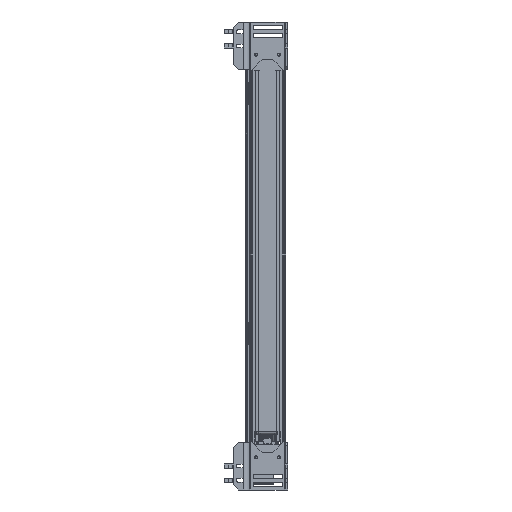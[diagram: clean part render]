
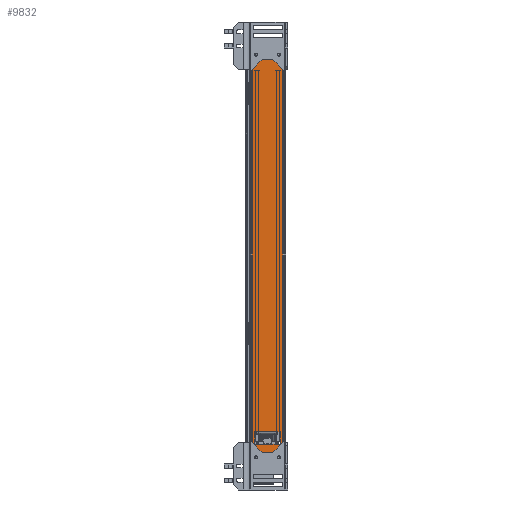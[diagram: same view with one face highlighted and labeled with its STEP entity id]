
A CAD part, left-side view. The second image highlights one B-rep face of the part: STEP entity #9832.
In plain terms, the highlighted planar face has unit normal (-1, 0, 0) as drawn and (1, 0, 0) by its records, which use the part's own axes.
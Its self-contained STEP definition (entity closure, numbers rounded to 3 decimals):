
#9559 = VERTEX_POINT ( 'NONE', #88823 ) ;
#9567 = EDGE_CURVE ( 'NONE', #9761, #9705, #88721, .T. ) ;
#9576 = VERTEX_POINT ( 'NONE', #88902 ) ;
#9633 = VERTEX_POINT ( 'NONE', #88985 ) ;
#9649 = VERTEX_POINT ( 'NONE', #89047 ) ;
#9702 = VERTEX_POINT ( 'NONE', #89170 ) ;
#9705 = VERTEX_POINT ( 'NONE', #89245 ) ;
#9737 = EDGE_CURVE ( 'NONE', #9649, #9559, #89401, .T. ) ;
#9743 = VERTEX_POINT ( 'NONE', #89474 ) ;
#9746 = EDGE_CURVE ( 'NONE', #9743, #9576, #89398, .T. ) ;
#9752 = EDGE_CURVE ( 'NONE', #9633, #9702, #89366, .T. ) ;
#9761 = VERTEX_POINT ( 'NONE', #89525 ) ;
#9770 = VERTEX_POINT ( 'NONE', #89512 ) ;
#9777 = EDGE_CURVE ( 'NONE', #9834, #9795, #89486, .T. ) ;
#9782 = EDGE_LOOP ( 'NONE', ( #9955, #9883, #9951, #9852, #9851, #9969, #9787, #9846, #9850, #9972, #9847, #9963 ) ) ;
#9785 = ORIENTED_EDGE ( 'NONE', *, *, #9777, .F. ) ;
#9787 = ORIENTED_EDGE ( 'NONE', *, *, #9970, .T. ) ;
#9789 = VERTEX_POINT ( 'NONE', #89567 ) ;
#9792 = EDGE_CURVE ( 'NONE', #9869, #9576, #89592, .T. ) ;
#9794 = EDGE_CURVE ( 'NONE', #9869, #9834, #89543, .T. ) ;
#9795 = VERTEX_POINT ( 'NONE', #89549 ) ;
#9831 = EDGE_CURVE ( 'NONE', #9885, #9743, #89700, .T. ) ;
#9832 = ADVANCED_FACE ( 'NONE', ( #89704, #89684 ), #89664, .F. ) ;
#9834 = VERTEX_POINT ( 'NONE', #89709 ) ;
#9836 = ORIENTED_EDGE ( 'NONE', *, *, #9839, .F. ) ;
#9838 = ORIENTED_EDGE ( 'NONE', *, *, #9831, .F. ) ;
#9839 = EDGE_CURVE ( 'NONE', #9795, #9885, #89767, .T. ) ;
#9843 = EDGE_CURVE ( 'NONE', #9789, #9953, #89753, .T. ) ;
#9846 = ORIENTED_EDGE ( 'NONE', *, *, #9974, .F. ) ;
#9847 = ORIENTED_EDGE ( 'NONE', *, *, #9567, .F. ) ;
#9849 = EDGE_CURVE ( 'NONE', #9789, #9770, #89727, .T. ) ;
#9850 = ORIENTED_EDGE ( 'NONE', *, *, #9979, .F. ) ;
#9851 = ORIENTED_EDGE ( 'NONE', *, *, #9843, .F. ) ;
#9852 = ORIENTED_EDGE ( 'NONE', *, *, #9952, .F. ) ;
#9869 = VERTEX_POINT ( 'NONE', #89861 ) ;
#9881 = VERTEX_POINT ( 'NONE', #89915 ) ;
#9883 = ORIENTED_EDGE ( 'NONE', *, *, #9949, .F. ) ;
#9885 = VERTEX_POINT ( 'NONE', #89898 ) ;
#9887 = EDGE_LOOP ( 'NONE', ( #9838, #9836, #9785, #9912, #9944, #9950 ) ) ;
#9912 = ORIENTED_EDGE ( 'NONE', *, *, #9794, .F. ) ;
#9944 = ORIENTED_EDGE ( 'NONE', *, *, #9792, .T. ) ;
#9949 = EDGE_CURVE ( 'NONE', #9633, #9649, #90071, .T. ) ;
#9950 = ORIENTED_EDGE ( 'NONE', *, *, #9746, .F. ) ;
#9951 = ORIENTED_EDGE ( 'NONE', *, *, #9752, .T. ) ;
#9952 = EDGE_CURVE ( 'NONE', #9953, #9702, #90047, .T. ) ;
#9953 = VERTEX_POINT ( 'NONE', #90051 ) ;
#9955 = ORIENTED_EDGE ( 'NONE', *, *, #9737, .F. ) ;
#9957 = VERTEX_POINT ( 'NONE', #90101 ) ;
#9959 = EDGE_CURVE ( 'NONE', #9977, #9705, #90150, .T. ) ;
#9960 = EDGE_CURVE ( 'NONE', #9761, #9559, #90145, .T. ) ;
#9963 = ORIENTED_EDGE ( 'NONE', *, *, #9960, .T. ) ;
#9969 = ORIENTED_EDGE ( 'NONE', *, *, #9849, .T. ) ;
#9970 = EDGE_CURVE ( 'NONE', #9770, #9957, #90127, .T. ) ;
#9972 = ORIENTED_EDGE ( 'NONE', *, *, #9959, .T. ) ;
#9974 = EDGE_CURVE ( 'NONE', #9881, #9957, #90164, .T. ) ;
#9977 = VERTEX_POINT ( 'NONE', #90215 ) ;
#9979 = EDGE_CURVE ( 'NONE', #9977, #9881, #90200, .T. ) ;
#88721 = LINE ( 'NONE', #88802, #88801 ) ;
#88800 = DIRECTION ( 'NONE',  ( 0., -1., 0. ) ) ;
#88801 = VECTOR ( 'NONE', #88800, 1000. ) ;
#88802 = CARTESIAN_POINT ( 'NONE',  ( 1.829, 17.463, -311.823 ) ) ;
#88823 = CARTESIAN_POINT ( 'NONE',  ( 1.829, 8.255, -311.823 ) ) ;
#88902 = CARTESIAN_POINT ( 'NONE',  ( 1.829, -15.875, 264.198 ) ) ;
#88985 = CARTESIAN_POINT ( 'NONE',  ( 1.829, 20.637, -314.998 ) ) ;
#89047 = CARTESIAN_POINT ( 'NONE',  ( 1.829, 17.463, -311.823 ) ) ;
#89170 = CARTESIAN_POINT ( 'NONE',  ( 1.829, 23.019, -314.998 ) ) ;
#89245 = CARTESIAN_POINT ( 'NONE',  ( 1.829, -3.175, -311.823 ) ) ;
#89366 = LINE ( 'NONE', #89430, #89428 ) ;
#89373 = DIRECTION ( 'NONE',  ( 0., -1., 0. ) ) ;
#89374 = VECTOR ( 'NONE', #89373, 1000. ) ;
#89375 = CARTESIAN_POINT ( 'NONE',  ( 1.829, 17.463, -311.823 ) ) ;
#89398 = LINE ( 'NONE', #89464, #89454 ) ;
#89401 = LINE ( 'NONE', #89375, #89374 ) ;
#89426 = DIRECTION ( 'NONE',  ( 0., 1., 0. ) ) ;
#89428 = VECTOR ( 'NONE', #89426, 1000. ) ;
#89430 = CARTESIAN_POINT ( 'NONE',  ( 1.829, 23.019, -314.998 ) ) ;
#89454 = VECTOR ( 'NONE', #89463, 1000. ) ;
#89463 = DIRECTION ( 'NONE',  ( 0., 1., 0. ) ) ;
#89464 = CARTESIAN_POINT ( 'NONE',  ( 1.829, 19.05, 264.198 ) ) ;
#89474 = CARTESIAN_POINT ( 'NONE',  ( 1.829, -19.05, 264.198 ) ) ;
#89486 = LINE ( 'NONE', #89588, #89582 ) ;
#89512 = CARTESIAN_POINT ( 'NONE',  ( 1.829, -23.019, -314.998 ) ) ;
#89525 = CARTESIAN_POINT ( 'NONE',  ( 1.829, 3.175, -311.823 ) ) ;
#89543 = LINE ( 'NONE', #89662, #89661 ) ;
#89549 = CARTESIAN_POINT ( 'NONE',  ( 1.829, 19.05, 283.248 ) ) ;
#89555 = DIRECTION ( 'NONE',  ( 0., -1., 0. ) ) ;
#89557 = VECTOR ( 'NONE', #89555, 1000. ) ;
#89567 = CARTESIAN_POINT ( 'NONE',  ( 1.829, -23.019, 314.998 ) ) ;
#89582 = VECTOR ( 'NONE', #89586, 1000. ) ;
#89586 = DIRECTION ( 'NONE',  ( 0., 0., 1. ) ) ;
#89588 = CARTESIAN_POINT ( 'NONE',  ( 1.829, 19.05, 283.248 ) ) ;
#89591 = CARTESIAN_POINT ( 'NONE',  ( 1.829, 15.875, 264.198 ) ) ;
#89592 = LINE ( 'NONE', #89591, #89557 ) ;
#89660 = DIRECTION ( 'NONE',  ( 0., 1., 0. ) ) ;
#89661 = VECTOR ( 'NONE', #89660, 1000. ) ;
#89662 = CARTESIAN_POINT ( 'NONE',  ( 1.829, 19.05, 264.198 ) ) ;
#89664 = PLANE ( 'NONE',  #89719 ) ;
#89666 = VECTOR ( 'NONE', #89672, 1000. ) ;
#89670 = DIRECTION ( 'NONE',  ( -1., 0., 0. ) ) ;
#89672 = DIRECTION ( 'NONE',  ( 0., 0., -1. ) ) ;
#89674 = CARTESIAN_POINT ( 'NONE',  ( 1.829, -19.05, 264.198 ) ) ;
#89684 = FACE_OUTER_BOUND ( 'NONE', #9782, .T. ) ;
#89692 = CARTESIAN_POINT ( 'NONE',  ( 1.829, 23.019, 314.998 ) ) ;
#89700 = LINE ( 'NONE', #89674, #89666 ) ;
#89704 = FACE_BOUND ( 'NONE', #9887, .T. ) ;
#89709 = CARTESIAN_POINT ( 'NONE',  ( 1.829, 19.05, 264.198 ) ) ;
#89719 = AXIS2_PLACEMENT_3D ( 'NONE', #89692, #89670, #89781 ) ;
#89727 = LINE ( 'NONE', #89859, #89857 ) ;
#89744 = DIRECTION ( 'NONE',  ( 0., 1., 0. ) ) ;
#89745 = VECTOR ( 'NONE', #89744, 1000. ) ;
#89752 = CARTESIAN_POINT ( 'NONE',  ( 1.829, 23.019, 314.998 ) ) ;
#89753 = LINE ( 'NONE', #89752, #89745 ) ;
#89762 = DIRECTION ( 'NONE',  ( 0., -1., 0. ) ) ;
#89763 = VECTOR ( 'NONE', #89762, 1000. ) ;
#89766 = CARTESIAN_POINT ( 'NONE',  ( 1.829, 19.05, 283.248 ) ) ;
#89767 = LINE ( 'NONE', #89766, #89763 ) ;
#89781 = DIRECTION ( 'NONE',  ( 0., 0., 1. ) ) ;
#89856 = DIRECTION ( 'NONE',  ( 0., 0., -1. ) ) ;
#89857 = VECTOR ( 'NONE', #89856, 1000. ) ;
#89859 = CARTESIAN_POINT ( 'NONE',  ( 1.829, -23.019, 314.998 ) ) ;
#89861 = CARTESIAN_POINT ( 'NONE',  ( 1.829, 15.875, 264.198 ) ) ;
#89898 = CARTESIAN_POINT ( 'NONE',  ( 1.829, -19.05, 283.248 ) ) ;
#89915 = CARTESIAN_POINT ( 'NONE',  ( 1.829, -17.463, -311.823 ) ) ;
#90046 = CARTESIAN_POINT ( 'NONE',  ( 1.829, 23.019, 314.998 ) ) ;
#90047 = LINE ( 'NONE', #90046, #90171 ) ;
#90051 = CARTESIAN_POINT ( 'NONE',  ( 1.829, 23.019, 314.998 ) ) ;
#90054 = DIRECTION ( 'NONE',  ( 0., 0., 1. ) ) ;
#90055 = DIRECTION ( 'NONE',  ( 1., 0., 0. ) ) ;
#90057 = CARTESIAN_POINT ( 'NONE',  ( 1.829, 17.463, -314.998 ) ) ;
#90071 = CIRCLE ( 'NONE', #90093, 3.175 ) ;
#90093 = AXIS2_PLACEMENT_3D ( 'NONE', #90057, #90055, #90054 ) ;
#90101 = CARTESIAN_POINT ( 'NONE',  ( 1.829, -20.637, -314.998 ) ) ;
#90125 = CARTESIAN_POINT ( 'NONE',  ( 1.829, 23.019, -314.998 ) ) ;
#90127 = LINE ( 'NONE', #90125, #90229 ) ;
#90139 = DIRECTION ( 'NONE',  ( 0., 1., 0. ) ) ;
#90140 = VECTOR ( 'NONE', #90139, 1000. ) ;
#90142 = CARTESIAN_POINT ( 'NONE',  ( 1.829, 3.175, -311.823 ) ) ;
#90145 = LINE ( 'NONE', #90142, #90140 ) ;
#90146 = DIRECTION ( 'NONE',  ( 0., 1., 0. ) ) ;
#90147 = VECTOR ( 'NONE', #90146, 1000. ) ;
#90149 = CARTESIAN_POINT ( 'NONE',  ( 1.829, -8.255, -311.823 ) ) ;
#90150 = LINE ( 'NONE', #90149, #90147 ) ;
#90164 = CIRCLE ( 'NONE', #90217, 3.175 ) ;
#90170 = DIRECTION ( 'NONE',  ( 0., 0., -1. ) ) ;
#90171 = VECTOR ( 'NONE', #90170, 1000. ) ;
#90187 = DIRECTION ( 'NONE',  ( 0., -1., 0. ) ) ;
#90189 = VECTOR ( 'NONE', #90187, 1000. ) ;
#90199 = CARTESIAN_POINT ( 'NONE',  ( 1.829, 17.463, -311.823 ) ) ;
#90200 = LINE ( 'NONE', #90199, #90189 ) ;
#90201 = DIRECTION ( 'NONE',  ( 0., 0., -1. ) ) ;
#90202 = DIRECTION ( 'NONE',  ( 1., 0., 0. ) ) ;
#90209 = CARTESIAN_POINT ( 'NONE',  ( 1.829, -17.463, -314.998 ) ) ;
#90215 = CARTESIAN_POINT ( 'NONE',  ( 1.829, -8.255, -311.823 ) ) ;
#90217 = AXIS2_PLACEMENT_3D ( 'NONE', #90209, #90202, #90201 ) ;
#90227 = DIRECTION ( 'NONE',  ( 0., 1., 0. ) ) ;
#90229 = VECTOR ( 'NONE', #90227, 1000. ) ;
